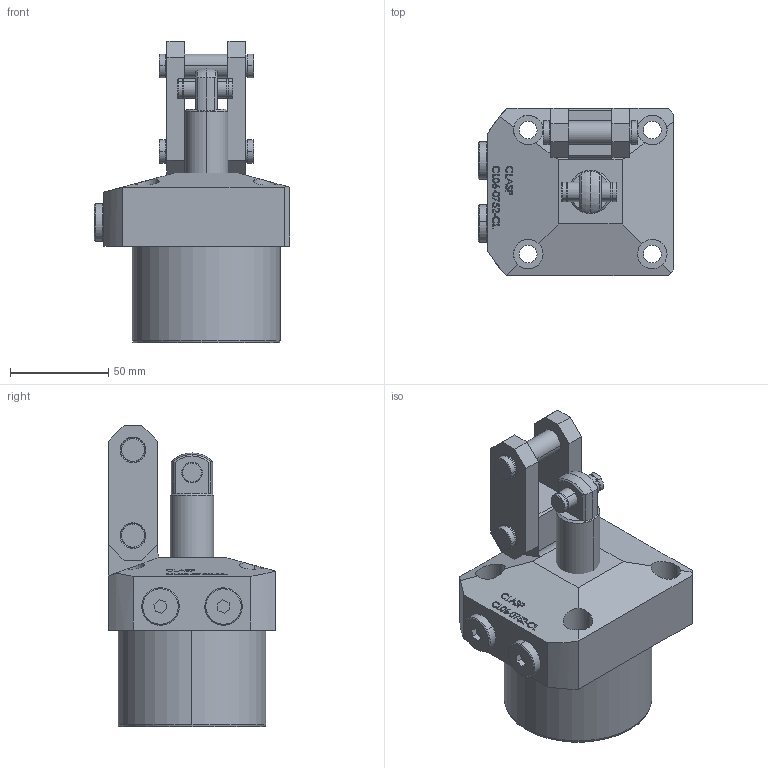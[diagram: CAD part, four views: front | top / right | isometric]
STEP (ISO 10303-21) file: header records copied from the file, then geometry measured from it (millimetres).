
FILE_DESCRIPTION (( 'STEP AP203' ), '1' );
FILE_NAME ('CL06-0752 cl.STEP', '2022-07-05T17:42:03', ( '' ), ( '' ), 'SwSTEP 2.0', 'SolidWorks 2017', '' );
FILE_SCHEMA (( 'CONFIG_CONTROL_DESIGN' ));
Length unit declared in the file: millimetre
Products named in the file (7): CL06-0752  Part2 cl; CL06-0752  Part5 cl; CL06-0752  Part6 cl; CL06-0752  Part7 cl; CL06-0752 cl; CL06-0752  Part1 cl; CL06-0752  Part3 cl
Assembly tree (9 placements, depth 2):
  CL06-0752 cl
    CL06-0752  Part1 cl
    CL06-0752  Part3 cl
    CL06-0752  Part2 cl  x2
    CL06-0752  Part5 cl  x2
    CL06-0752  Part6 cl  x2
    CL06-0752  Part7 cl
Bounding box: 99.5 x 85 x 153 mm (x, y, z)
Volume: 526444.9 mm3; surface area: 68967.6 mm2
Topology: 9 solids, 9 shells, 417 faces, 1020 edges, 661 vertices
Faces by surface type: plane 190, bspline 89, cylinder 86, cone 50, sphere 2
Entity records: 16835 total; most frequent: CARTESIAN_POINT 7940, ORIENTED_EDGE 1788, DIRECTION 1420, EDGE_CURVE 894, VERTEX_POINT 585, LINE 514, VECTOR 514, AXIS2_PLACEMENT_3D 453
